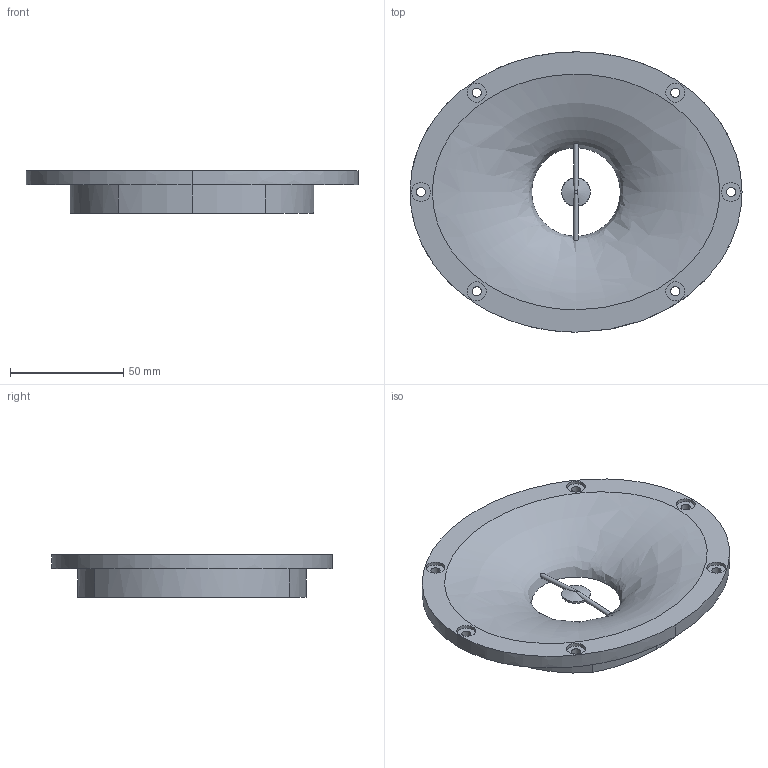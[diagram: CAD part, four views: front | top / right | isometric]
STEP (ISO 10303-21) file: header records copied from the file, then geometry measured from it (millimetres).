
FILE_DESCRIPTION(/* description */ (''),/* implementation_level */ '2;1');
FILE_NAME(/* name */ '5x75 vA 82 v1_ps.step',/* time_stamp */ '2023-07-21T22:55:55-06:00',/* author */ (''),/* organization */ (''),/* preprocessor_version */ 'ST-DEVELOPER v19.2',/* originating_system */ 'Autodesk Translation Framework v12.6.0.85',/* authorisation */ '');
FILE_SCHEMA (('AUTOMOTIVE_DESIGN { 1 0 10303 214 3 1 1 }'));
Length unit declared in the file: inch
Products named in the file (3): 5x75 vA 82; modified 6 v2; Component7
Assembly tree (2 placements, depth 3):
  5x75 vA 82
    modified 6 v2
      Component7
Bounding box: 146.81 x 123.95 x 18.92 mm (x, y, z)
Volume: 131588.3 mm3; surface area: 37193.4 mm2
Topology: 2 solids, 2 shells, 210 faces, 562 edges, 378 vertices
Faces by surface type: bspline 96, plane 85, cylinder 23, cone 6
Full cylindrical faces by diameter (mm): 2.032 x2, 3.302 x2, 4.064 x6, 8.382 x6, 12.7 x1
Entity records: 13036 total; most frequent: CARTESIAN_POINT 8370, ORIENTED_EDGE 1122, DIRECTION 623, EDGE_CURVE 561, VERTEX_POINT 378, LINE 291, VECTOR 291, EDGE_LOOP 247
